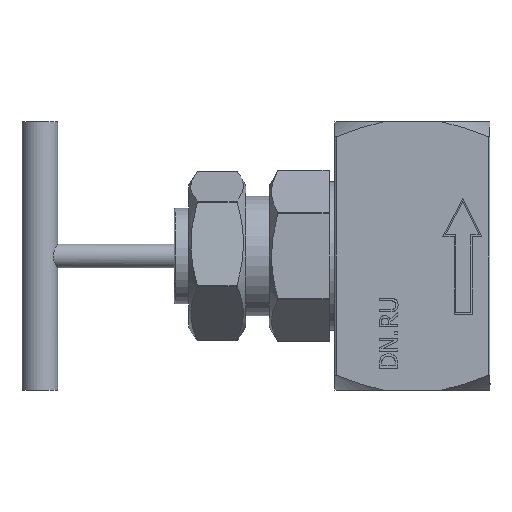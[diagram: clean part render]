
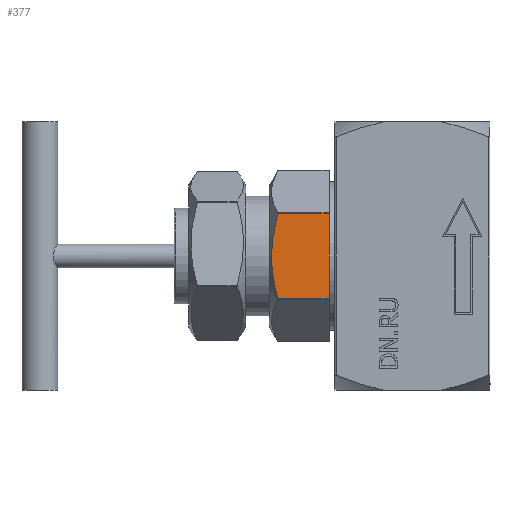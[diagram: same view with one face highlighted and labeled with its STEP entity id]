
A CAD part, left-side view. The second image highlights one B-rep face of the part: STEP entity #377.
In plain terms, the highlighted planar face has unit normal (-1, 0, 0).
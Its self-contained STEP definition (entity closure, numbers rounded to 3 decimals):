
#377=ADVANCED_FACE('',(#1913),#1915,.T.);
#1913=FACE_BOUND('',#1914,.T.);
#1914=EDGE_LOOP('',(#4263,#4264,#4265,#4266,#4267));
#1915=PLANE('',#1916);
#1916=AXIS2_PLACEMENT_3D('',#1917,#1918,#1919);
#1917=CARTESIAN_POINT('',(-25.,28.,-14.434));
#1918=DIRECTION('',(-1.,0.,0.));
#1919=DIRECTION('',(0.,0.,1.));
#4263=ORIENTED_EDGE('',*,*,#5025,.F.);
#4264=ORIENTED_EDGE('',*,*,#5053,.T.);
#4265=ORIENTED_EDGE('',*,*,#5054,.T.);
#4266=ORIENTED_EDGE('',*,*,#5050,.F.);
#4267=ORIENTED_EDGE('',*,*,#5035,.T.);
#5025=EDGE_CURVE('',#5544,#5539,#5546,.T.);
#5035=EDGE_CURVE('',#5564,#5539,#5565,.T.);
#5050=EDGE_CURVE('',#5564,#5590,#5591,.T.);
#5053=EDGE_CURVE('',#5544,#5595,#5596,.T.);
#5054=EDGE_CURVE('',#5595,#5590,#5597,.T.);
#5539=VERTEX_POINT('',#8611);
#5544=VERTEX_POINT('',#8634);
#5546=LINE('',#8639,#8640);
#5564=VERTEX_POINT('',#8838);
#5565=B_SPLINE_CURVE_WITH_KNOTS('',3,
(#8839,#8840,#8841,#8842,#8843,#8844,#8845,#8846,#8847,#8848,#8849,#8850,#8851,#8852,
#8853,#8854,#8855,#8856,#8857,#8858,#8859,#8860,#8861,#8862,#8863,#8864,#8865,#8866,
#8867,#8868,#8869,#8870,#8871,#8872,#8873,#8874,#8875,#8876,#8877,#8878,#8879,#8880,
#8881,#8882,#8883,#8884,#8885,#8886,#8887,#8888),
.UNSPECIFIED.,.F.,.F.,
(4,1,1,1,1,1,1,1,1,1,1,1,1,1,1,1,1,1,1,1,1,1,1,1,1,1,1,1,1,1,1,1,1,1,1,1,1,1,1,1,
1,1,1,1,1,1,1,4),
(0.,0.024,0.048,0.072,0.091,
0.096,0.12,0.144,0.169,0.194,
0.219,0.245,0.27,0.271,0.297,
0.323,0.351,0.378,0.406,0.435,
0.461,0.463,0.491,0.5,0.52,
0.548,0.576,0.604,0.632,0.653,
0.66,0.687,0.713,0.738,0.763,
0.788,0.811,0.834,0.839,0.856,
0.878,0.899,0.92,0.94,0.96,
0.966,0.98,1.),
.UNSPECIFIED.);
#5590=VERTEX_POINT('',#9068);
#5591=LINE('',#9069,#9070);
#5595=VERTEX_POINT('',#9080);
#5596=LINE('',#9081,#9082);
#5597=LINE('',#9084,#9085);
#8611=CARTESIAN_POINT('',(-25.,45.196,-14.145));
#8634=CARTESIAN_POINT('',(-25.,28.,-14.145));
#8639=CARTESIAN_POINT('',(-25.,28.,-14.145));
#8640=VECTOR('',#8641,1.);
#8641=DIRECTION('',(0.,1.,0.));
#8838=CARTESIAN_POINT('',(-25.,45.196,14.145));
#8839=CARTESIAN_POINT('',(-25.,45.196,14.145));
#8840=CARTESIAN_POINT('',(-25.,45.269,13.887));
#8841=CARTESIAN_POINT('',(-25.,45.412,13.376));
#8842=CARTESIAN_POINT('',(-25.,45.612,12.622));
#8843=CARTESIAN_POINT('',(-25.,45.787,11.933));
#8844=CARTESIAN_POINT('',(-25.,45.906,11.444));
#8845=CARTESIAN_POINT('',(-25.,46.021,10.957));
#8846=CARTESIAN_POINT('',(-25.,46.144,10.419));
#8847=CARTESIAN_POINT('',(-25.,46.3,9.698));
#8848=CARTESIAN_POINT('',(-25.,46.445,8.981));
#8849=CARTESIAN_POINT('',(-25.,46.579,8.268));
#8850=CARTESIAN_POINT('',(-25.,46.703,7.556));
#8851=CARTESIAN_POINT('',(-25.,46.817,6.843));
#8852=CARTESIAN_POINT('',(-25.,46.887,6.36));
#8853=CARTESIAN_POINT('',(-25.,46.953,5.881));
#8854=CARTESIAN_POINT('',(-25.,47.015,5.396));
#8855=CARTESIAN_POINT('',(-25.,47.097,4.681));
#8856=CARTESIAN_POINT('',(-25.,47.169,3.95));
#8857=CARTESIAN_POINT('',(-25.,47.23,3.212));
#8858=CARTESIAN_POINT('',(-25.,47.278,2.47));
#8859=CARTESIAN_POINT('',(-25.,47.313,1.738));
#8860=CARTESIAN_POINT('',(-25.,47.329,1.241));
#8861=CARTESIAN_POINT('',(-25.,47.341,0.742));
#8862=CARTESIAN_POINT('',(-25.,47.345,0.402));
#8863=CARTESIAN_POINT('',(-25.,47.347,-0.098));
#8864=CARTESIAN_POINT('',(-25.,47.344,-0.597));
#8865=CARTESIAN_POINT('',(-25.,47.33,-1.269));
#8866=CARTESIAN_POINT('',(-25.,47.302,-2.014));
#8867=CARTESIAN_POINT('',(-25.,47.261,-2.756));
#8868=CARTESIAN_POINT('',(-25.,47.212,-3.438));
#8869=CARTESIAN_POINT('',(-25.,47.169,-3.931));
#8870=CARTESIAN_POINT('',(-25.,47.123,-4.419));
#8871=CARTESIAN_POINT('',(-25.,47.067,-4.955));
#8872=CARTESIAN_POINT('',(-25.,46.982,-5.669));
#8873=CARTESIAN_POINT('',(-25.,46.886,-6.372));
#8874=CARTESIAN_POINT('',(-25.,46.783,-7.061));
#8875=CARTESIAN_POINT('',(-25.,46.672,-7.74));
#8876=CARTESIAN_POINT('',(-25.,46.554,-8.403));
#8877=CARTESIAN_POINT('',(-25.,46.46,-8.896));
#8878=CARTESIAN_POINT('',(-25.,46.374,-9.331));
#8879=CARTESIAN_POINT('',(-25.,46.286,-9.76));
#8880=CARTESIAN_POINT('',(-25.,46.159,-10.35));
#8881=CARTESIAN_POINT('',(-25.,46.015,-10.985));
#8882=CARTESIAN_POINT('',(-25.,45.865,-11.617));
#8883=CARTESIAN_POINT('',(-25.,45.709,-12.246));
#8884=CARTESIAN_POINT('',(-25.,45.584,-12.726));
#8885=CARTESIAN_POINT('',(-25.,45.473,-13.146));
#8886=CARTESIAN_POINT('',(-25.,45.359,-13.566));
#8887=CARTESIAN_POINT('',(-25.,45.257,-13.932));
#8888=CARTESIAN_POINT('',(-25.,45.196,-14.145));
#9068=CARTESIAN_POINT('',(-25.,28.,14.145));
#9069=CARTESIAN_POINT('',(-25.,45.196,14.145));
#9070=VECTOR('',#9071,1.);
#9071=DIRECTION('',(0.,-1.,0.));
#9080=CARTESIAN_POINT('',(-25.,28.,0.));
#9081=CARTESIAN_POINT('',(-25.,28.,-14.145));
#9082=VECTOR('',#9083,1.);
#9083=DIRECTION('',(0.,0.,1.));
#9084=CARTESIAN_POINT('',(-25.,28.,0.));
#9085=VECTOR('',#9086,1.);
#9086=DIRECTION('',(0.,0.,1.));
